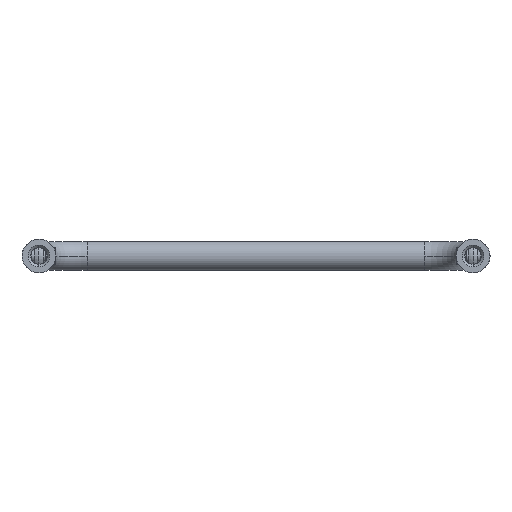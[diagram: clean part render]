
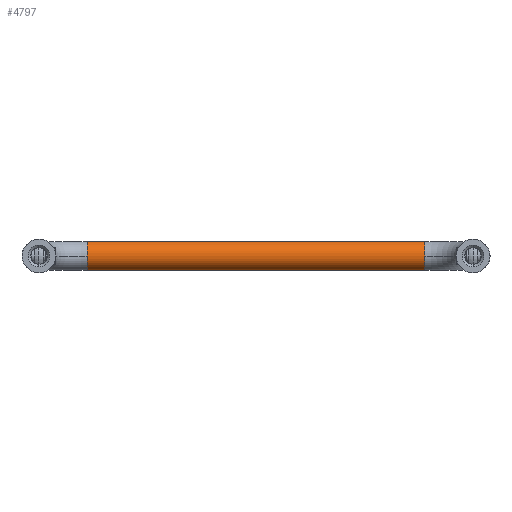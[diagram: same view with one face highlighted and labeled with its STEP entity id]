
A CAD part, front view. The second image highlights one B-rep face of the part: STEP entity #4797.
In plain terms, the highlighted cylindrical face has radius 3 mm (diameter 6 mm), a partial arc.
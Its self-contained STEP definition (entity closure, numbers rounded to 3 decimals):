
#317 = CARTESIAN_POINT ( 'NONE',  ( -35., 34.682, -3. ) ) ;
#350 = DIRECTION ( 'NONE',  ( -1., 0., 0. ) ) ;
#417 = CARTESIAN_POINT ( 'NONE',  ( -35., 34.682, 0. ) ) ;
#422 = CARTESIAN_POINT ( 'NONE',  ( 35., 34.682, 0. ) ) ;
#538 = CARTESIAN_POINT ( 'NONE',  ( 35., 31.682, 0. ) ) ;
#540 = EDGE_CURVE ( 'NONE', #5425, #6176, #7566, .T. ) ;
#707 = EDGE_LOOP ( 'NONE', ( #1163, #7395, #3966, #5631, #2106, #3539 ) ) ;
#905 = CARTESIAN_POINT ( 'NONE',  ( 35., 34.682, -3. ) ) ;
#916 = AXIS2_PLACEMENT_3D ( 'NONE', #422, #350, #2293 ) ;
#1163 = ORIENTED_EDGE ( 'NONE', *, *, #540, .F. ) ;
#1422 = CARTESIAN_POINT ( 'NONE',  ( -35., 31.682, 0. ) ) ;
#1619 = AXIS2_PLACEMENT_3D ( 'NONE', #5803, #5131, #6361 ) ;
#1663 = EDGE_CURVE ( 'NONE', #3245, #7197, #6718, .T. ) ;
#1928 = AXIS2_PLACEMENT_3D ( 'NONE', #6522, #4059, #5172 ) ;
#2074 = CARTESIAN_POINT ( 'NONE',  ( -35., 34.682, 3. ) ) ;
#2079 = CYLINDRICAL_SURFACE ( 'NONE', #1619, 3. ) ;
#2106 = ORIENTED_EDGE ( 'NONE', *, *, #1663, .T. ) ;
#2293 = DIRECTION ( 'NONE',  ( 0., 0., 1. ) ) ;
#2299 = CARTESIAN_POINT ( 'NONE',  ( 35., 34.682, 3. ) ) ;
#2567 = CIRCLE ( 'NONE', #916, 3. ) ;
#2754 = CARTESIAN_POINT ( 'NONE',  ( -35., 34.682, 3. ) ) ;
#2802 = FACE_OUTER_BOUND ( 'NONE', #707, .T. ) ;
#2967 = EDGE_CURVE ( 'NONE', #7197, #6176, #2567, .T. ) ;
#3003 = VECTOR ( 'NONE', #5839, 1000. ) ;
#3044 = LINE ( 'NONE', #5456, #4591 ) ;
#3245 = VERTEX_POINT ( 'NONE', #905 ) ;
#3337 = CIRCLE ( 'NONE', #1928, 3. ) ;
#3439 = CARTESIAN_POINT ( 'NONE',  ( 35., 34.682, 0. ) ) ;
#3515 = EDGE_CURVE ( 'NONE', #5862, #3245, #3044, .T. ) ;
#3539 = ORIENTED_EDGE ( 'NONE', *, *, #2967, .T. ) ;
#3582 = AXIS2_PLACEMENT_3D ( 'NONE', #417, #5265, #7702 ) ;
#3926 = AXIS2_PLACEMENT_3D ( 'NONE', #3439, #5476, #7839 ) ;
#3966 = ORIENTED_EDGE ( 'NONE', *, *, #7672, .F. ) ;
#4059 = DIRECTION ( 'NONE',  ( -1., 0., 0. ) ) ;
#4591 = VECTOR ( 'NONE', #6681, 1000. ) ;
#4797 = ADVANCED_FACE ( 'NONE', ( #2802 ), #2079, .T. ) ;
#5131 = DIRECTION ( 'NONE',  ( 1., 0., 0. ) ) ;
#5172 = DIRECTION ( 'NONE',  ( 0., 0., 1. ) ) ;
#5265 = DIRECTION ( 'NONE',  ( -1., 0., 0. ) ) ;
#5425 = VERTEX_POINT ( 'NONE', #2754 ) ;
#5456 = CARTESIAN_POINT ( 'NONE',  ( -35., 34.682, -3. ) ) ;
#5476 = DIRECTION ( 'NONE',  ( -1., 0., 0. ) ) ;
#5631 = ORIENTED_EDGE ( 'NONE', *, *, #3515, .T. ) ;
#5803 = CARTESIAN_POINT ( 'NONE',  ( -35., 34.682, 0. ) ) ;
#5839 = DIRECTION ( 'NONE',  ( 1., 0., 0. ) ) ;
#5862 = VERTEX_POINT ( 'NONE', #317 ) ;
#6176 = VERTEX_POINT ( 'NONE', #2299 ) ;
#6304 = VERTEX_POINT ( 'NONE', #1422 ) ;
#6361 = DIRECTION ( 'NONE',  ( 0., 0., -1. ) ) ;
#6446 = EDGE_CURVE ( 'NONE', #6304, #5425, #6516, .T. ) ;
#6516 = CIRCLE ( 'NONE', #3582, 3. ) ;
#6522 = CARTESIAN_POINT ( 'NONE',  ( -35., 34.682, 0. ) ) ;
#6681 = DIRECTION ( 'NONE',  ( 1., 0., 0. ) ) ;
#6718 = CIRCLE ( 'NONE', #3926, 3. ) ;
#7197 = VERTEX_POINT ( 'NONE', #538 ) ;
#7395 = ORIENTED_EDGE ( 'NONE', *, *, #6446, .F. ) ;
#7566 = LINE ( 'NONE', #2074, #3003 ) ;
#7672 = EDGE_CURVE ( 'NONE', #5862, #6304, #3337, .T. ) ;
#7702 = DIRECTION ( 'NONE',  ( 0., 0., 1. ) ) ;
#7839 = DIRECTION ( 'NONE',  ( 0., 0., 1. ) ) ;
